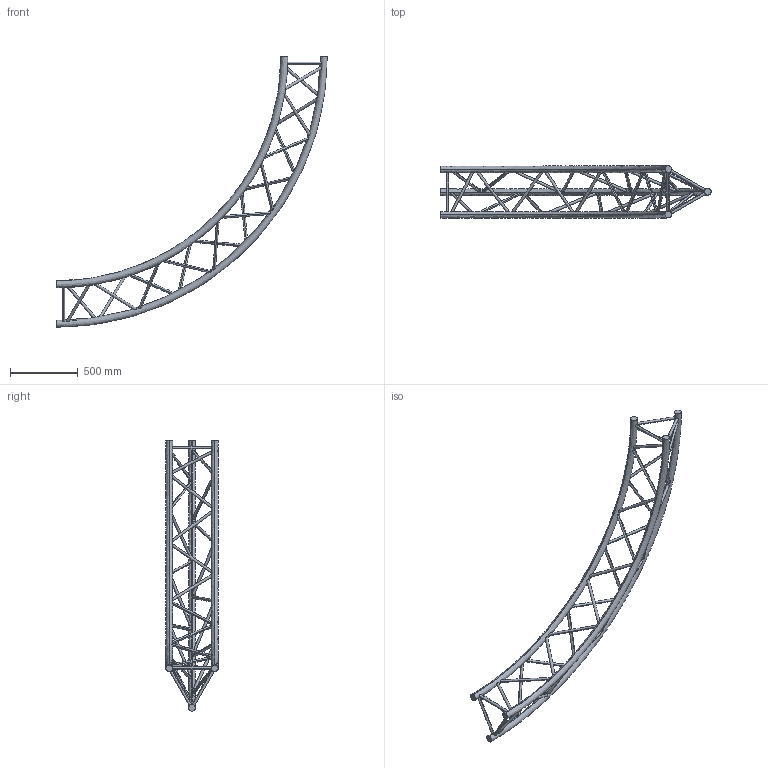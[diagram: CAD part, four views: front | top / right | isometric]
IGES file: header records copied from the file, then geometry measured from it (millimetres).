
Start section: SolidWorks IGES file using analytic representation for surfaces
Global section: file name: K:\BIBLIO\asd_biblio\SX390\Cercles\SXC39PE\SXC39400PE\SXC39400PE.IGS; native system: SolidWorks 2009; preprocessor: SolidWorks 2009; author: des3; date: 091021.135900; units: millimetre
Bounding box: 2000 x 387 x 2000 mm (x, y, z)
Surface area: 2103380.6 mm2 (no closed solid volume)
Topology: 0 solids, 0 shells, 84 faces, 6013 edges, 6013 vertices
Faces by surface type: revolution 72, bspline 12
